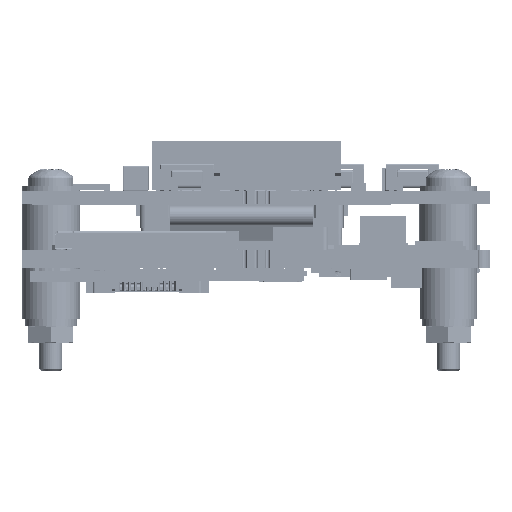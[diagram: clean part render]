
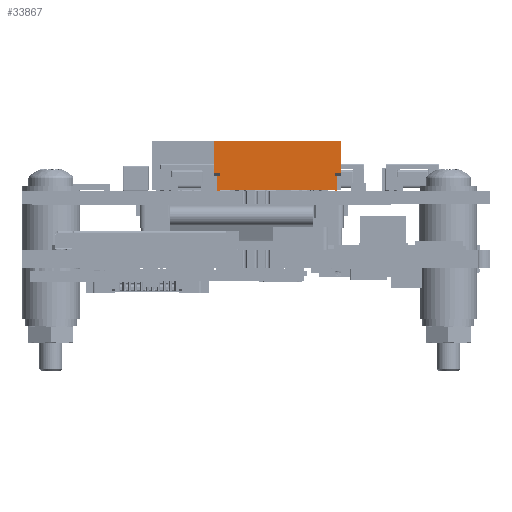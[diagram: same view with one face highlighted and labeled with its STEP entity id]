
A CAD part, left-side view. The second image highlights one B-rep face of the part: STEP entity #33867.
In plain terms, the highlighted planar face has unit normal (-1, 0, 0) as drawn and (0, 0, -1) by its records, which use the part's own axes.
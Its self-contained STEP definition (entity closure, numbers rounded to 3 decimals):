
#33867 = ADVANCED_FACE( '', ( #63072 ), #63073, .T. );
#63072 = FACE_OUTER_BOUND( '', #92523, .T. );
#63073 = PLANE( '', #92524 );
#92523 = EDGE_LOOP( '', ( #139793, #139794, #139795, #139796, #139797, #139798, #139799, #139800, #139801, #139802, #139803, #139804, #139805, #139806, #139807, #139808 ) );
#92524 = AXIS2_PLACEMENT_3D( '', #139809, #139810, #139811 );
#139793 = ORIENTED_EDGE( '', *, *, #187677, .T. );
#139794 = ORIENTED_EDGE( '', *, *, #187678, .F. );
#139795 = ORIENTED_EDGE( '', *, *, #174691, .F. );
#139796 = ORIENTED_EDGE( '', *, *, #184364, .T. );
#139797 = ORIENTED_EDGE( '', *, *, #187679, .T. );
#139798 = ORIENTED_EDGE( '', *, *, #187680, .T. );
#139799 = ORIENTED_EDGE( '', *, *, #187681, .T. );
#139800 = ORIENTED_EDGE( '', *, *, #187682, .T. );
#139801 = ORIENTED_EDGE( '', *, *, #179520, .T. );
#139802 = ORIENTED_EDGE( '', *, *, #182631, .T. );
#139803 = ORIENTED_EDGE( '', *, *, #187683, .F. );
#139804 = ORIENTED_EDGE( '', *, *, #186952, .F. );
#139805 = ORIENTED_EDGE( '', *, *, #187684, .F. );
#139806 = ORIENTED_EDGE( '', *, *, #187685, .F. );
#139807 = ORIENTED_EDGE( '', *, *, #187686, .T. );
#139808 = ORIENTED_EDGE( '', *, *, #187687, .T. );
#139809 = CARTESIAN_POINT( '', ( -5.5, 4.25, -0.7 ) );
#139810 = DIRECTION( '', ( 0., 0., -1. ) );
#139811 = DIRECTION( '', ( -1., 0., 0. ) );
#174691 = EDGE_CURVE( '', #202815, #202813, #202817, .T. );
#179520 = EDGE_CURVE( '', #210863, #210861, #210864, .T. );
#182631 = EDGE_CURVE( '', #210861, #215660, #215662, .T. );
#184364 = EDGE_CURVE( '', #202815, #218208, #218210, .T. );
#186952 = EDGE_CURVE( '', #221810, #221813, #221814, .T. );
#187677 = EDGE_CURVE( '', #222782, #222783, #222784, .T. );
#187678 = EDGE_CURVE( '', #202813, #222783, #222785, .T. );
#187679 = EDGE_CURVE( '', #218208, #222786, #222787, .T. );
#187680 = EDGE_CURVE( '', #222786, #222788, #222789, .T. );
#187681 = EDGE_CURVE( '', #222788, #222790, #222791, .T. );
#187682 = EDGE_CURVE( '', #222790, #210863, #222792, .T. );
#187683 = EDGE_CURVE( '', #221813, #215660, #222793, .T. );
#187684 = EDGE_CURVE( '', #222794, #221810, #222795, .T. );
#187685 = EDGE_CURVE( '', #222796, #222794, #222797, .T. );
#187686 = EDGE_CURVE( '', #222796, #222798, #222799, .T. );
#187687 = EDGE_CURVE( '', #222798, #222782, #222800, .T. );
#202813 = VERTEX_POINT( '', #242026 );
#202815 = VERTEX_POINT( '', #242029 );
#202817 = LINE( '', #242032, #242033 );
#210861 = VERTEX_POINT( '', #253619 );
#210863 = VERTEX_POINT( '', #253622 );
#210864 = LINE( '', #253623, #253624 );
#215660 = VERTEX_POINT( '', #260719 );
#215662 = LINE( '', #260722, #260723 );
#218208 = VERTEX_POINT( '', #264446 );
#218210 = LINE( '', #264449, #264450 );
#221810 = VERTEX_POINT( '', #269809 );
#221813 = VERTEX_POINT( '', #269813 );
#221814 = LINE( '', #269814, #269815 );
#222782 = VERTEX_POINT( '', #271226 );
#222783 = VERTEX_POINT( '', #271227 );
#222784 = LINE( '', #271228, #271229 );
#222785 = LINE( '', #271230, #271231 );
#222786 = VERTEX_POINT( '', #271232 );
#222787 = LINE( '', #271233, #271234 );
#222788 = VERTEX_POINT( '', #271235 );
#222789 = LINE( '', #271236, #271237 );
#222790 = VERTEX_POINT( '', #271238 );
#222791 = LINE( '', #271239, #271240 );
#222792 = LINE( '', #271241, #271242 );
#222793 = LINE( '', #271243, #271244 );
#222794 = VERTEX_POINT( '', #271245 );
#222795 = LINE( '', #271246, #271247 );
#222796 = VERTEX_POINT( '', #271248 );
#222797 = LINE( '', #271249, #271250 );
#222798 = VERTEX_POINT( '', #271251 );
#222799 = LINE( '', #271252, #271253 );
#222800 = LINE( '', #271254, #271255 );
#242026 = CARTESIAN_POINT( '', ( -5., -0.05, -0.7 ) );
#242029 = CARTESIAN_POINT( '', ( -5.2, -0.05, -0.7 ) );
#242032 = CARTESIAN_POINT( '', ( -5.2, -0.05, -0.7 ) );
#242033 = VECTOR( '', #287504, 1000. );
#253619 = CARTESIAN_POINT( '', ( 5.5, 4.25, -0.7 ) );
#253622 = CARTESIAN_POINT( '', ( -5.5, 4.25, -0.7 ) );
#253623 = CARTESIAN_POINT( '', ( -5.5, 4.25, -0.7 ) );
#253624 = VECTOR( '', #292673, 1000. );
#260719 = CARTESIAN_POINT( '', ( 5.5, 1.489, -0.7 ) );
#260722 = CARTESIAN_POINT( '', ( 5.5, 0., -0.7 ) );
#260723 = VECTOR( '', #295703, 1000. );
#264446 = CARTESIAN_POINT( '', ( -5.2, 1.2, -0.7 ) );
#264449 = CARTESIAN_POINT( '', ( -5.2, 1.2, -0.7 ) );
#264450 = VECTOR( '', #297480, 1000. );
#269809 = CARTESIAN_POINT( '', ( 5., 1.2, -0.7 ) );
#269813 = CARTESIAN_POINT( '', ( 5., 1.489, -0.7 ) );
#269814 = CARTESIAN_POINT( '', ( 5., 0.55, -0.7 ) );
#269815 = VECTOR( '', #299852, 1000. );
#271226 = CARTESIAN_POINT( '', ( 5., 0., -0.7 ) );
#271227 = CARTESIAN_POINT( '', ( -5., 0., -0.7 ) );
#271228 = CARTESIAN_POINT( '', ( 5.5, 0., -0.7 ) );
#271229 = VECTOR( '', #300611, 1000. );
#271230 = CARTESIAN_POINT( '', ( -5., 1.2, -0.7 ) );
#271231 = VECTOR( '', #300612, 1000. );
#271232 = CARTESIAN_POINT( '', ( -5., 1.2, -0.7 ) );
#271233 = CARTESIAN_POINT( '', ( -5.2, 1.2, -0.7 ) );
#271234 = VECTOR( '', #300613, 1000. );
#271235 = CARTESIAN_POINT( '', ( -5., 1.489, -0.7 ) );
#271236 = CARTESIAN_POINT( '', ( -5., 1.489, -0.7 ) );
#271237 = VECTOR( '', #300614, 1000. );
#271238 = CARTESIAN_POINT( '', ( -5.5, 1.489, -0.7 ) );
#271239 = CARTESIAN_POINT( '', ( -5., 1.489, -0.7 ) );
#271240 = VECTOR( '', #300615, 1000. );
#271241 = CARTESIAN_POINT( '', ( -5.5, 0., -0.7 ) );
#271242 = VECTOR( '', #300616, 1000. );
#271243 = CARTESIAN_POINT( '', ( 5., 1.489, -0.7 ) );
#271244 = VECTOR( '', #300617, 1000. );
#271245 = CARTESIAN_POINT( '', ( 5.2, 1.2, -0.7 ) );
#271246 = CARTESIAN_POINT( '', ( 5.2, 1.2, -0.7 ) );
#271247 = VECTOR( '', #300618, 1000. );
#271248 = CARTESIAN_POINT( '', ( 5.2, -0.05, -0.7 ) );
#271249 = CARTESIAN_POINT( '', ( 5.2, 1.2, -0.7 ) );
#271250 = VECTOR( '', #300619, 1000. );
#271251 = CARTESIAN_POINT( '', ( 5., -0.05, -0.7 ) );
#271252 = CARTESIAN_POINT( '', ( 5.2, -0.05, -0.7 ) );
#271253 = VECTOR( '', #300620, 1000. );
#271254 = CARTESIAN_POINT( '', ( 5., 1.2, -0.7 ) );
#271255 = VECTOR( '', #300621, 1000. );
#287504 = DIRECTION( '', ( 1., 0., 0. ) );
#292673 = DIRECTION( '', ( 1., 0., 0. ) );
#295703 = DIRECTION( '', ( 0., -1., 0. ) );
#297480 = DIRECTION( '', ( 0., 1., 0. ) );
#299852 = DIRECTION( '', ( 0., 1., 0. ) );
#300611 = DIRECTION( '', ( -1., 0., 0. ) );
#300612 = DIRECTION( '', ( 0., 1., 0. ) );
#300613 = DIRECTION( '', ( 1., 0., 0. ) );
#300614 = DIRECTION( '', ( 0., 1., 0. ) );
#300615 = DIRECTION( '', ( -1., 0., 0. ) );
#300616 = DIRECTION( '', ( 0., 1., 0. ) );
#300617 = DIRECTION( '', ( 1., 0., 0. ) );
#300618 = DIRECTION( '', ( -1., 0., 0. ) );
#300619 = DIRECTION( '', ( 0., 1., 0. ) );
#300620 = DIRECTION( '', ( -1., 0., 0. ) );
#300621 = DIRECTION( '', ( 0., 1., 0. ) );
